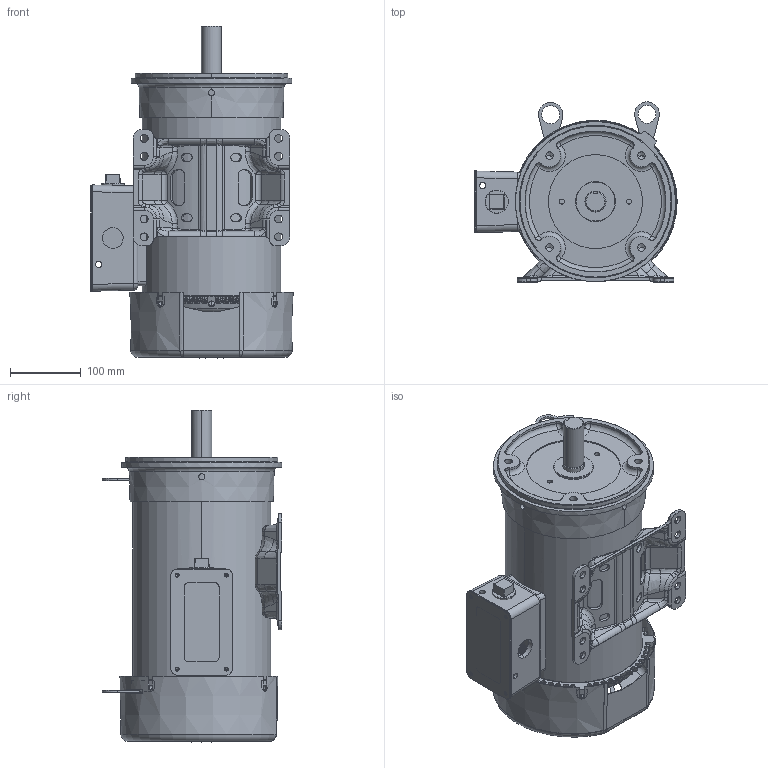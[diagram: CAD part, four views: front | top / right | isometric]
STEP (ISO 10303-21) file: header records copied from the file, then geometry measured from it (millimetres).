
FILE_DESCRIPTION((''),'2;1');
FILE_NAME('180_SSTL_ASM_ASM','2015-06-05T',('NMC2342'),('Nidec Motor Corporation'),'PRO/ENGINEER BY PARAMETRIC TECHNOLOGY CORPORATION, 2013150','PRO/ENGINEER BY PARAMETRIC TECHNOLOGY CORPORATION, 2013150','');
FILE_SCHEMA(('CONFIG_CONTROL_DESIGN'));
Length unit declared in the file: inch
Products named in the file (16): 0497464_AF0; 0452714; 0452715; 0345786; 0497463; 0497461; 0496271; 0452716; 0497460; 0497462; 0027197; 0496274; 0496270; 0011294; DE_SEAL; 180_SSTL_ASM_ASM
Assembly tree (16 placements, depth 2):
  180_SSTL_ASM_ASM
    0497464_AF0
    0452714
    0452715
    0345786
    0497463
    0497461
    0496271
    0452716
    0497460
    0497462  x2
    0027197
    0496274
    0496270
    0011294
    DE_SEAL
Bounding box: 287.1 x 255.15 x 470.89 mm (x, y, z)
Volume: 2423946.3 mm3; surface area: 1080045.6 mm2
Topology: 18 solids, 18 shells, 2913 faces, 6954 edges, 4103 vertices
Faces by surface type: bspline 1186, cylinder 605, plane 467, torus 255, cone 234, extrusion 90, sphere 76
Entity records: 143391 total; most frequent: CARTESIAN_POINT 83671, ORIENTED_EDGE 13786, DIRECTION 10420, EDGE_CURVE 6893, AXIS2_PLACEMENT_3D 4290, VERTEX_POINT 4087, EDGE_LOOP 3140, FACE_OUTER_BOUND 2903
